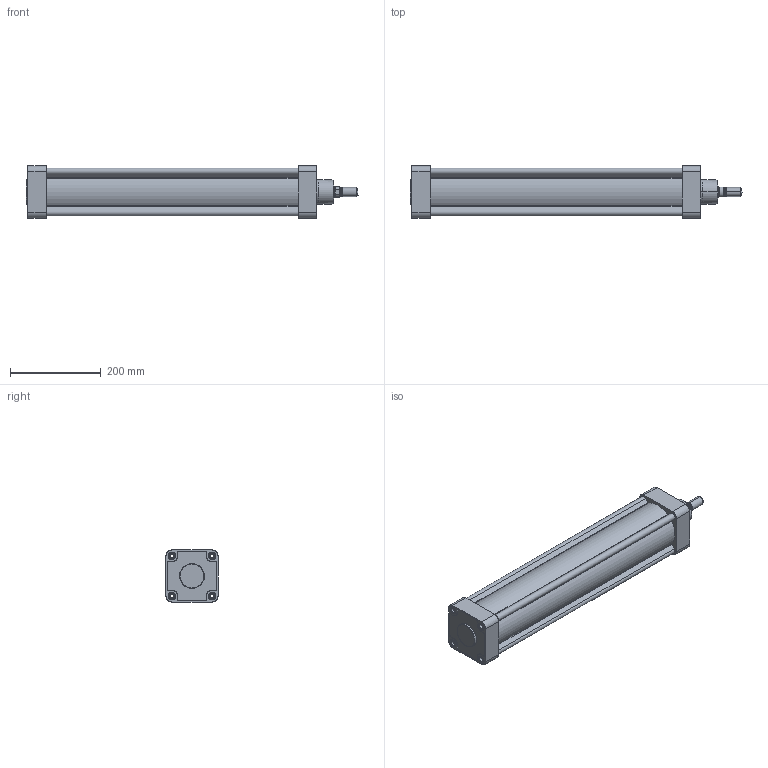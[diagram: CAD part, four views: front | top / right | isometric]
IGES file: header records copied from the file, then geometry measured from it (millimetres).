
Start section: SolidWorks IGES file using analytic representation for surfaces
Global section: file name: K:\Disegni Esecutivi\Cilindri\2_DISEGNI_cilindri_in_produzione\21_Cilindri blue air\1_CILINDRI SERIE BLUE AIR\E\E100\complessivo cilindro E100\complessivo_serie_E100\EH100G\EH01000500G.igs; native system: SolidWorks 2013; preprocessor: SolidWorks 2013; author: Cad01; date: 140505.081628; units: millimetre
Bounding box: 733.5 x 115 x 115 mm (x, y, z)
Surface area: 421287.7 mm2 (no closed solid volume)
Topology: 0 solids, 0 shells, 448 faces, 4794 edges, 4794 vertices
Faces by surface type: revolution 257, bspline 191
